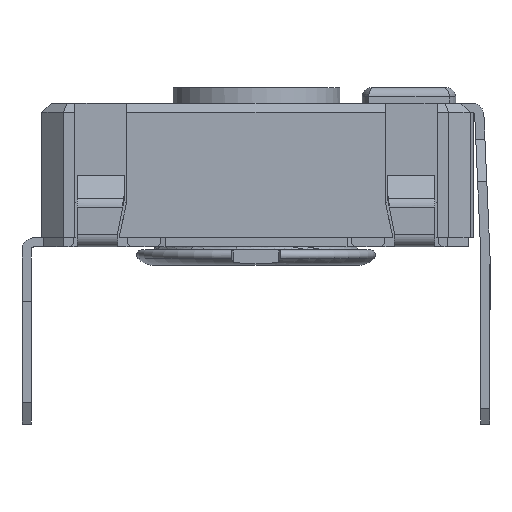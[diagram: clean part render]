
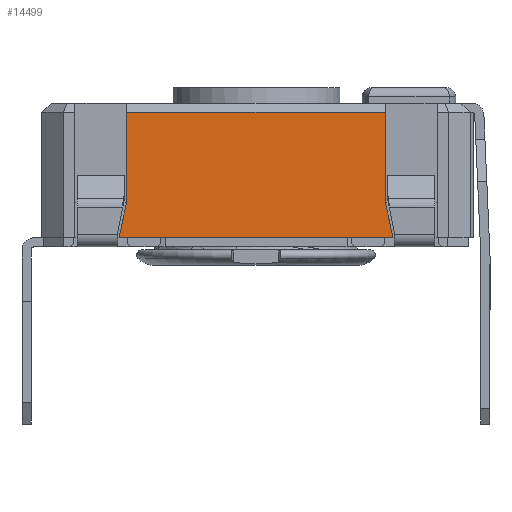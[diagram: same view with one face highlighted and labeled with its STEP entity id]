
A CAD part, left-side view. The second image highlights one B-rep face of the part: STEP entity #14499.
In plain terms, the highlighted planar face has unit normal (-1, 0, 0).
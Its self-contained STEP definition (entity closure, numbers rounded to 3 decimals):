
#1304=FACE_OUTER_BOUND('',#2053,.T.);
#2053=EDGE_LOOP('',(#12303,#12304,#12305,#12306,#12307,#12308));
#2956=LINE('',#21892,#4538);
#3255=LINE('',#22838,#4837);
#3259=LINE('',#22845,#4841);
#3616=LINE('',#23610,#5198);
#3621=LINE('',#23618,#5203);
#3622=LINE('',#23620,#5204);
#4538=VECTOR('',#17638,10.);
#4837=VECTOR('',#18367,10.);
#4841=VECTOR('',#18373,10.);
#5198=VECTOR('',#19118,10.);
#5203=VECTOR('',#19125,10.);
#5204=VECTOR('',#19128,10.);
#6040=VERTEX_POINT('',#21889);
#6041=VERTEX_POINT('',#21891);
#6332=VERTEX_POINT('',#22835);
#6333=VERTEX_POINT('',#22837);
#6335=VERTEX_POINT('',#22843);
#6535=VERTEX_POINT('',#23616);
#7683=EDGE_CURVE('',#6040,#6041,#2956,.T.);
#8093=EDGE_CURVE('',#6332,#6333,#3255,.T.);
#8097=EDGE_CURVE('',#6332,#6335,#3259,.T.);
#8478=EDGE_CURVE('',#6041,#6335,#3616,.T.);
#8483=EDGE_CURVE('',#6535,#6040,#3621,.T.);
#8484=EDGE_CURVE('',#6535,#6333,#3622,.T.);
#12303=ORIENTED_EDGE('',*,*,#8093,.F.);
#12304=ORIENTED_EDGE('',*,*,#8097,.T.);
#12305=ORIENTED_EDGE('',*,*,#8478,.F.);
#12306=ORIENTED_EDGE('',*,*,#7683,.F.);
#12307=ORIENTED_EDGE('',*,*,#8483,.F.);
#12308=ORIENTED_EDGE('',*,*,#8484,.T.);
#13085=PLANE('',#15576);
#14499=ADVANCED_FACE('',(#1304),#13085,.T.);
#15576=AXIS2_PLACEMENT_3D('',#23654,#19174,#19175);
#17638=DIRECTION('',(0.,1.,0.));
#18367=DIRECTION('',(0.,-1.,0.));
#18373=DIRECTION('',(0.,0.,-1.));
#19118=DIRECTION('',(0.,-0.208,0.978));
#19125=DIRECTION('',(0.,-0.208,-0.978));
#19128=DIRECTION('',(0.,0.,1.));
#19174=DIRECTION('center_axis',(-1.,0.,0.));
#19175=DIRECTION('ref_axis',(0.,0.,1.));
#21889=CARTESIAN_POINT('',(-7.,-4.425,-2.225));
#21891=CARTESIAN_POINT('',(-7.,4.525,-2.225));
#21892=CARTESIAN_POINT('',(-7.,-6.25,-2.225));
#22835=CARTESIAN_POINT('',(-7.,4.275,1.875));
#22837=CARTESIAN_POINT('',(-7.,-4.175,1.875));
#22838=CARTESIAN_POINT('',(-7.,-3.1,1.875));
#22843=CARTESIAN_POINT('',(-7.,4.275,-1.049));
#22845=CARTESIAN_POINT('',(-7.,4.275,-2.225));
#23610=CARTESIAN_POINT('',(-7.,4.525,-2.225));
#23616=CARTESIAN_POINT('',(-7.,-4.175,-1.049));
#23618=CARTESIAN_POINT('',(-7.,-4.175,-1.049));
#23620=CARTESIAN_POINT('',(-7.,-4.175,-2.225));
#23654=CARTESIAN_POINT('Origin',(-7.,-6.25,-2.225));
